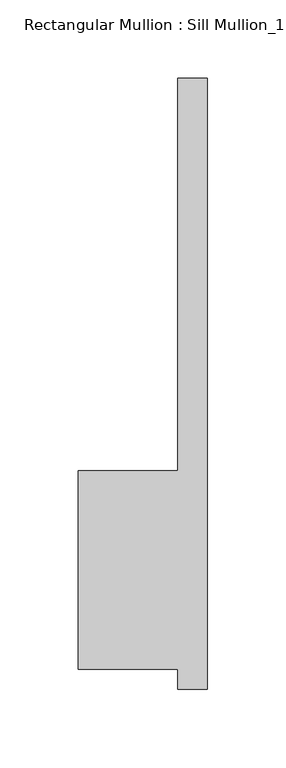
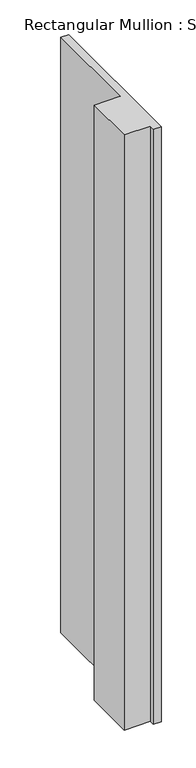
"""IFC4 building model written with IfcOpenShell, lengths in millimetres: member geometry."""

from ifc_helpers import new_model, si_unit, frame, origin, place, context, project, spatial, polyline, outline, extrude, source, transform, mapped, element, save


def member_d666c9f7(model_context):
    return source(origin(), model_context, "Body", "SweptSolid", [
        extrude(outline(polyline([(-82.55, 50.8), (-19.05, 50.8), (-19.05, 301.625), (0.0, 301.625), (0.0, -88.9), (-19.05, -88.9), (-19.05, -76.2), (-82.55, -76.2), (-82.55, 50.8)])), frame((0.0, 0.0, -1536.7), z_axis=(0.0, 0.0, 1.0), x_axis=(1.0, 0.0, 0.0)), (0.0, 0.0, 1.0), 1536.7),
    ])


if __name__ == "__main__":
    model = new_model("IFC4")
    model_context = context("Model", 3, world=origin())
    ifc_project = project(units=[si_unit("LENGTHUNIT", "METRE", prefix="MILLI")], contexts=[model_context])
    site = spatial("IfcSite", under=ifc_project)
    building = spatial("IfcBuilding", under=site)
    placement = place(None, origin())
    member_shape = member_d666c9f7(model_context)
    element("IfcMember", 1, ObjectType="Rectangular Mullion : Sill Mullion_15\" thick wall", at=placement, inside=building, context=model_context, shape_type="MappedRepresentation", body=[
        mapped(member_shape, transform((0.0, 0.0, 0.0), x_axis=(1.0, 0.0, 0.0), y_axis=(0.0, 1.0, 0.0), z_axis=(0.0, 0.0, 1.0))),
    ])
    save(model, "model.ifc")
